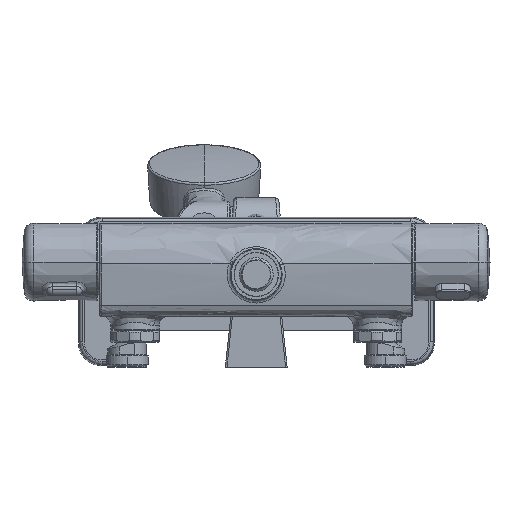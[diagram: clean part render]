
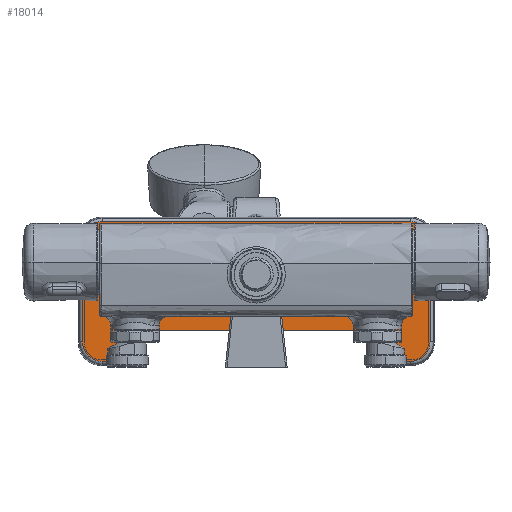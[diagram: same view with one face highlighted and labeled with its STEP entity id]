
A CAD part, front view. The second image highlights one B-rep face of the part: STEP entity #18014.
In plain terms, the highlighted planar face has unit normal (0, -1, 0).
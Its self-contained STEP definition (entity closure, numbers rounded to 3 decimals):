
#225 = CARTESIAN_POINT ( 'NONE',  ( 107.646, -316.95, 78.119 ) ) ;
#281 = CARTESIAN_POINT ( 'NONE',  ( -82.32, -316.95, 0.5 ) ) ;
#386 = EDGE_LOOP ( 'NONE', ( #2722, #20584, #21196, #11575, #13487, #6908, #23319, #3140, #9072, #25438, #1949, #15326, #13315, #14832 ) ) ;
#590 = VECTOR ( 'NONE', #16095, 1000. ) ;
#679 = CARTESIAN_POINT ( 'NONE',  ( 107.646, -316.95, 85.148 ) ) ;
#943 = CARTESIAN_POINT ( 'NONE',  ( -95.472, -316.95, 90.117 ) ) ;
#1108 = EDGE_CURVE ( 'NONE', #18272, #13172, #5721, .T. ) ;
#1222 = CARTESIAN_POINT ( 'NONE',  ( 0., -316.95, 90.117 ) ) ;
#1226 =( BOUNDED_CURVE ( )  B_SPLINE_CURVE ( 3, ( #17298, #5475, #19276, #7450 ),
 .UNSPECIFIED., .F., .T. ) 
 B_SPLINE_CURVE_WITH_KNOTS ( ( 4, 4 ),
 ( 2.356, 3.927 ),
 .UNSPECIFIED. ) 
 CURVE ( )  GEOMETRIC_REPRESENTATION_ITEM ( )  RATIONAL_B_SPLINE_CURVE ( ( 1., 0.805, 0.805, 1. ) ) 
 REPRESENTATION_ITEM ( '' )  );
#1357 = AXIS2_PLACEMENT_3D ( 'NONE', #19368, #4353, #8650 ) ;
#1413 = EDGE_CURVE ( 'NONE', #10174, #9046, #10889, .T. ) ;
#1554 = CARTESIAN_POINT ( 'NONE',  ( -75.32, -316.95, 22.535 ) ) ;
#1949 = ORIENTED_EDGE ( 'NONE', *, *, #14748, .T. ) ;
#2129 = VECTOR ( 'NONE', #9014, 1000. ) ;
#2666 = CARTESIAN_POINT ( 'NONE',  ( 107.646, -316.95, 78.119 ) ) ;
#2722 = ORIENTED_EDGE ( 'NONE', *, *, #6474, .T. ) ;
#2879 = DIRECTION ( 'NONE',  ( 0., 0., 1. ) ) ;
#3026 = VERTEX_POINT ( 'NONE', #5248 ) ;
#3140 = ORIENTED_EDGE ( 'NONE', *, *, #12933, .T. ) ;
#3208 = DIRECTION ( 'NONE',  ( -1., 0., 0. ) ) ;
#3334 = EDGE_CURVE ( 'NONE', #16345, #3026, #4657, .T. ) ;
#3378 = CARTESIAN_POINT ( 'NONE',  ( -107.47, -316.95, 78.119 ) ) ;
#3912 = DIRECTION ( 'NONE',  ( 0., 1., 0. ) ) ;
#3995 = DIRECTION ( 'NONE',  ( 1., 0., 0. ) ) ;
#4081 = LINE ( 'NONE', #23706, #14596 ) ;
#4142 = DIRECTION ( 'NONE',  ( 0., 1., 0. ) ) ;
#4353 = DIRECTION ( 'NONE',  ( 0., 1., 0. ) ) ;
#4464 = VECTOR ( 'NONE', #3208, 1000. ) ;
#4643 = CARTESIAN_POINT ( 'NONE',  ( 102.677, -316.95, 90.117 ) ) ;
#4657 = CIRCLE ( 'NONE', #1357, 7. ) ;
#4975 = CARTESIAN_POINT ( 'NONE',  ( -82.32, -316.95, 3.508 ) ) ;
#5248 = CARTESIAN_POINT ( 'NONE',  ( 82.32, -316.95, 15.535 ) ) ;
#5254 = VERTEX_POINT ( 'NONE', #225 ) ;
#5345 = LINE ( 'NONE', #281, #590 ) ;
#5475 = CARTESIAN_POINT ( 'NONE',  ( -102.501, -316.95, 90.117 ) ) ;
#5545 = CARTESIAN_POINT ( 'NONE',  ( 95.648, -316.95, 90.117 ) ) ;
#5721 = CIRCLE ( 'NONE', #18825, 7. ) ;
#6076 =( BOUNDED_CURVE ( )  B_SPLINE_CURVE ( 3, ( #2666, #679, #4643, #18437 ),
 .UNSPECIFIED., .F., .T. ) 
 B_SPLINE_CURVE_WITH_KNOTS ( ( 4, 4 ),
 ( 2.356, 3.927 ),
 .UNSPECIFIED. ) 
 CURVE ( )  GEOMETRIC_REPRESENTATION_ITEM ( )  RATIONAL_B_SPLINE_CURVE ( ( 1., 0.805, 0.805, 1. ) ) 
 REPRESENTATION_ITEM ( '' )  );
#6096 = CARTESIAN_POINT ( 'NONE',  ( 82.32, -316.95, 3.508 ) ) ;
#6474 = EDGE_CURVE ( 'NONE', #19050, #10235, #21412, .T. ) ;
#6673 = CARTESIAN_POINT ( 'NONE',  ( -102.501, -316.95, 3.508 ) ) ;
#6796 = CARTESIAN_POINT ( 'NONE',  ( 82.32, -316.95, 0.5 ) ) ;
#6908 = ORIENTED_EDGE ( 'NONE', *, *, #3334, .T. ) ;
#7099 = LINE ( 'NONE', #22552, #22249 ) ;
#7450 = CARTESIAN_POINT ( 'NONE',  ( -107.47, -316.95, 78.119 ) ) ;
#7786 = CARTESIAN_POINT ( 'NONE',  ( 95.648, -316.95, 3.508 ) ) ;
#8630 = CARTESIAN_POINT ( 'NONE',  ( -107.47, -316.95, 15.506 ) ) ;
#8650 = DIRECTION ( 'NONE',  ( 0., 0., 1. ) ) ;
#9014 = DIRECTION ( 'NONE',  ( 1., 0., 0. ) ) ;
#9046 = VERTEX_POINT ( 'NONE', #24383 ) ;
#9072 = ORIENTED_EDGE ( 'NONE', *, *, #1413, .T. ) ;
#9122 = EDGE_CURVE ( 'NONE', #14010, #11483, #23650, .T. ) ;
#9923 = DIRECTION ( 'NONE',  ( 0., 0., 1. ) ) ;
#10174 = VERTEX_POINT ( 'NONE', #23872 ) ;
#10235 = VERTEX_POINT ( 'NONE', #20039 ) ;
#10634 = CARTESIAN_POINT ( 'NONE',  ( -95.472, -316.95, 3.508 ) ) ;
#10679 = EDGE_CURVE ( 'NONE', #13821, #18272, #5345, .T. ) ;
#10889 =( BOUNDED_CURVE ( )  B_SPLINE_CURVE ( 3, ( #7786, #21814, #19695, #25649 ),
 .UNSPECIFIED., .F., .T. ) 
 B_SPLINE_CURVE_WITH_KNOTS ( ( 4, 4 ),
 ( 2.356, 3.927 ),
 .UNSPECIFIED. ) 
 CURVE ( )  GEOMETRIC_REPRESENTATION_ITEM ( )  RATIONAL_B_SPLINE_CURVE ( ( 1., 0.805, 0.805, 1. ) ) 
 REPRESENTATION_ITEM ( '' )  );
#10911 = EDGE_CURVE ( 'NONE', #9046, #5254, #7099, .T. ) ;
#11041 = CARTESIAN_POINT ( 'NONE',  ( 0., -316.95, 3.508 ) ) ;
#11176 = CARTESIAN_POINT ( 'NONE',  ( -107.47, -316.95, 0.5 ) ) ;
#11483 = VERTEX_POINT ( 'NONE', #943 ) ;
#11575 = ORIENTED_EDGE ( 'NONE', *, *, #1108, .T. ) ;
#12610 = VECTOR ( 'NONE', #15036, 1000. ) ;
#12933 = EDGE_CURVE ( 'NONE', #20229, #10174, #21904, .T. ) ;
#12972 = LINE ( 'NONE', #11176, #18607 ) ;
#13172 = VERTEX_POINT ( 'NONE', #1554 ) ;
#13315 = ORIENTED_EDGE ( 'NONE', *, *, #20517, .T. ) ;
#13487 = ORIENTED_EDGE ( 'NONE', *, *, #20739, .T. ) ;
#13821 = VERTEX_POINT ( 'NONE', #4975 ) ;
#14010 = VERTEX_POINT ( 'NONE', #5545 ) ;
#14242 = LINE ( 'NONE', #6796, #21607 ) ;
#14561 = FACE_OUTER_BOUND ( 'NONE', #386, .T. ) ;
#14596 = VECTOR ( 'NONE', #3995, 1000. ) ;
#14748 = EDGE_CURVE ( 'NONE', #5254, #14010, #6076, .T. ) ;
#14832 = ORIENTED_EDGE ( 'NONE', *, *, #14907, .T. ) ;
#14907 = EDGE_CURVE ( 'NONE', #17098, #19050, #12972, .T. ) ;
#15036 = DIRECTION ( 'NONE',  ( 1., 0., 0. ) ) ;
#15326 = ORIENTED_EDGE ( 'NONE', *, *, #9122, .T. ) ;
#15976 = PLANE ( 'NONE',  #22819 ) ;
#16095 = DIRECTION ( 'NONE',  ( 0., 0., 1. ) ) ;
#16345 = VERTEX_POINT ( 'NONE', #17330 ) ;
#17029 = EDGE_CURVE ( 'NONE', #10235, #13821, #20744, .T. ) ;
#17098 = VERTEX_POINT ( 'NONE', #3378 ) ;
#17298 = CARTESIAN_POINT ( 'NONE',  ( -95.472, -316.95, 90.117 ) ) ;
#17330 = CARTESIAN_POINT ( 'NONE',  ( 75.32, -316.95, 22.535 ) ) ;
#17797 = CARTESIAN_POINT ( 'NONE',  ( -75.32, -316.95, 15.535 ) ) ;
#17940 = DIRECTION ( 'NONE',  ( 0., 0., 1. ) ) ;
#18014 = ADVANCED_FACE ( 'NONE', ( #14561 ), #15976, .F. ) ;
#18272 = VERTEX_POINT ( 'NONE', #20518 ) ;
#18363 = EDGE_CURVE ( 'NONE', #3026, #20229, #14242, .T. ) ;
#18437 = CARTESIAN_POINT ( 'NONE',  ( 95.648, -316.95, 90.117 ) ) ;
#18607 = VECTOR ( 'NONE', #23113, 1000. ) ;
#18618 = DIRECTION ( 'NONE',  ( 0., 0., -1. ) ) ;
#18825 = AXIS2_PLACEMENT_3D ( 'NONE', #17797, #3912, #9923 ) ;
#19050 = VERTEX_POINT ( 'NONE', #25230 ) ;
#19276 = CARTESIAN_POINT ( 'NONE',  ( -107.47, -316.95, 85.148 ) ) ;
#19368 = CARTESIAN_POINT ( 'NONE',  ( 75.32, -316.95, 15.535 ) ) ;
#19668 = CARTESIAN_POINT ( 'NONE',  ( 0., -316.95, 0.5 ) ) ;
#19695 = CARTESIAN_POINT ( 'NONE',  ( 107.646, -316.95, 8.477 ) ) ;
#20039 = CARTESIAN_POINT ( 'NONE',  ( -95.472, -316.95, 3.508 ) ) ;
#20229 = VERTEX_POINT ( 'NONE', #6096 ) ;
#20486 = CARTESIAN_POINT ( 'NONE',  ( -107.47, -316.95, 8.477 ) ) ;
#20517 = EDGE_CURVE ( 'NONE', #11483, #17098, #1226, .T. ) ;
#20518 = CARTESIAN_POINT ( 'NONE',  ( -82.32, -316.95, 15.535 ) ) ;
#20584 = ORIENTED_EDGE ( 'NONE', *, *, #17029, .T. ) ;
#20739 = EDGE_CURVE ( 'NONE', #13172, #16345, #4081, .T. ) ;
#20744 = LINE ( 'NONE', #11041, #12610 ) ;
#20870 = CARTESIAN_POINT ( 'NONE',  ( 0., -316.95, 3.508 ) ) ;
#21196 = ORIENTED_EDGE ( 'NONE', *, *, #10679, .T. ) ;
#21412 =( BOUNDED_CURVE ( )  B_SPLINE_CURVE ( 3, ( #8630, #20486, #6673, #10634 ),
 .UNSPECIFIED., .F., .T. ) 
 B_SPLINE_CURVE_WITH_KNOTS ( ( 4, 4 ),
 ( 2.356, 3.927 ),
 .UNSPECIFIED. ) 
 CURVE ( )  GEOMETRIC_REPRESENTATION_ITEM ( )  RATIONAL_B_SPLINE_CURVE ( ( 1., 0.805, 0.805, 1. ) ) 
 REPRESENTATION_ITEM ( '' )  );
#21607 = VECTOR ( 'NONE', #18618, 1000. ) ;
#21814 = CARTESIAN_POINT ( 'NONE',  ( 102.677, -316.95, 3.508 ) ) ;
#21904 = LINE ( 'NONE', #20870, #2129 ) ;
#22249 = VECTOR ( 'NONE', #2879, 1000. ) ;
#22552 = CARTESIAN_POINT ( 'NONE',  ( 107.646, -316.95, 0.5 ) ) ;
#22819 = AXIS2_PLACEMENT_3D ( 'NONE', #19668, #4142, #17940 ) ;
#23113 = DIRECTION ( 'NONE',  ( 0., 0., -1. ) ) ;
#23319 = ORIENTED_EDGE ( 'NONE', *, *, #18363, .T. ) ;
#23650 = LINE ( 'NONE', #1222, #4464 ) ;
#23706 = CARTESIAN_POINT ( 'NONE',  ( 0., -316.95, 22.535 ) ) ;
#23872 = CARTESIAN_POINT ( 'NONE',  ( 95.648, -316.95, 3.508 ) ) ;
#24383 = CARTESIAN_POINT ( 'NONE',  ( 107.646, -316.95, 15.506 ) ) ;
#25230 = CARTESIAN_POINT ( 'NONE',  ( -107.47, -316.95, 15.506 ) ) ;
#25438 = ORIENTED_EDGE ( 'NONE', *, *, #10911, .T. ) ;
#25649 = CARTESIAN_POINT ( 'NONE',  ( 107.646, -316.95, 15.506 ) ) ;
